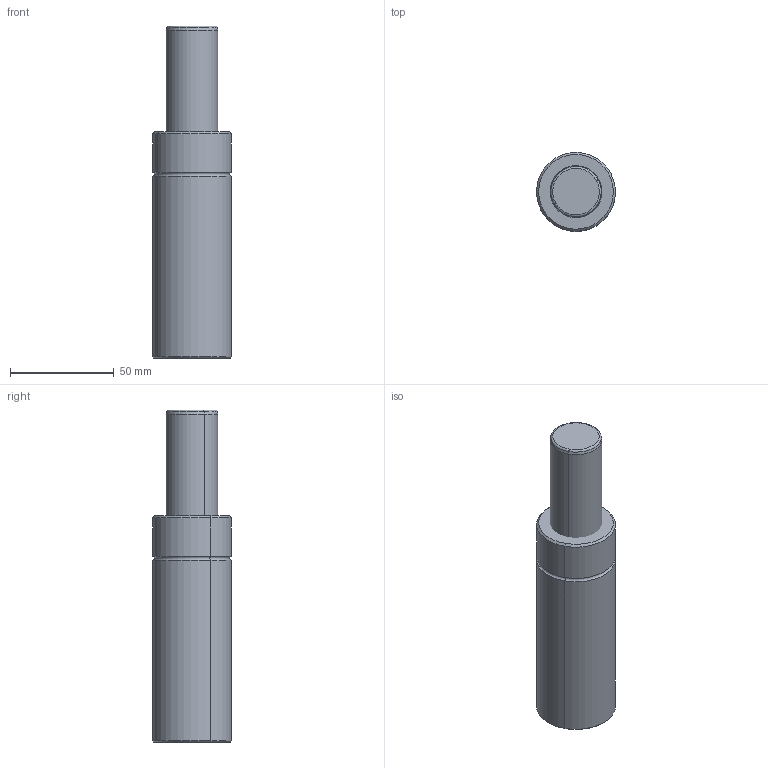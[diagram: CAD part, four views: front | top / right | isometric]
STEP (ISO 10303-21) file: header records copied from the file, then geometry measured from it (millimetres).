
FILE_DESCRIPTION(('CATIA V5 STEP Exchange'),'2;1');
FILE_NAME('W:\CATALOGO GENERAL 2018\FICHEROS CAD\003-TPH\TPH 1000\TPH1000x50.stp','2017-10-30T10:58:59+00:00',('none'),('none'),'CATIA Version 5 Release 17 (IN-10)','CATIA V5 STEP AP203','none');
FILE_SCHEMA(('CONFIG_CONTROL_DESIGN'));
Length unit declared in the file: millimetre
Products named in the file (1): TPH 1000x50
Assembly tree (2 placements, depth 2):
  TPH 1000x50
    #56
    #489
Bounding box: 37.99 x 37.99 x 160 mm (x, y, z)
Volume: 157629.6 mm3; surface area: 22769.3 mm2
Topology: 2 solids, 2 shells, 43 faces, 82 edges, 48 vertices
Faces by surface type: cylinder 16, torus 10, plane 9, cone 8
Entity records: 1016 total; most frequent: ORIENTED_EDGE 164, CARTESIAN_POINT 156, DIRECTION 134, AXIS2_PLACEMENT_3D 84, EDGE_CURVE 82, CIRCLE 58, EDGE_LOOP 48, VERTEX_POINT 48
